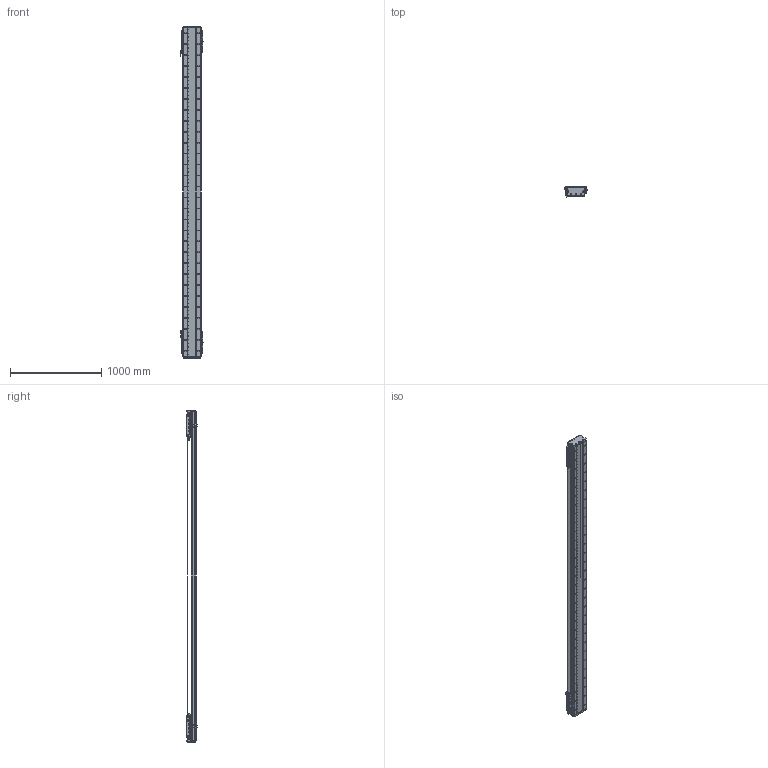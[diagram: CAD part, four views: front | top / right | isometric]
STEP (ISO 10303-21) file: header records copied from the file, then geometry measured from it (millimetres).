
FILE_DESCRIPTION (( 'STEP AP203' ), '1' );
FILE_NAME ('DA-C195-2-C3-T3020-C010-0.2 眻盄萇儂.STEP', '2025-08-15T00:53:41', ( '' ), ( '' ), 'SwSTEP 2.0', 'SolidWorks 2019', '' );
FILE_SCHEMA (( 'CONFIG_CONTROL_DESIGN' ));
Length unit declared in the file: millimetre
Products named in the file (19): DA95-HXJ-00 遣喳砎蝶; DA165-GYP-00 光电感应片(默认); DKW-KGZ-ZJ-00 中间光电开关支架; LMT黍杅芛; IU-CU195-L-00 菁釱(L3600); DA195詩湍郪璃; CU195-C3賑輸-俋楷; DKW-GYP-ZJ-00 笢潔嫖萇覜茼え; 葩璃 DA95-GT-T-00; DA-C195-2-C3-T3020-C010-0.2 眻盄萇儂; PM-Y65嫖萇羲壽郪璃; DA195詩湍裔啣; DKW168-HXJ-ZJ-00 笢潔滅袉砎蝶; IU-CU195-L 菁釱絳寢; DA195詩湍嶺輸; PM-T45ㄗ侂狟ㄘ; DA195詩湍菜輸; MS200 棠掑喜S315-T240; DA-C195-GD-DB-H-00 傷啣
Assembly tree (37 placements, depth 3):
  DA-C195-2-C3-T3020-C010-0.2 眻盄萇儂
    DA195詩湍郪璃
      DA195詩湍菜輸  x2
      DA195詩湍裔啣
      DA195詩湍嶺輸  x2
      DA95-HXJ-00 遣喳砎蝶  x8
      DA-C195-GD-DB-H-00 傷啣  x2
    IU-CU195-L 菁釱絳寢
      IU-CU195-L-00 菁釱(L3600)
      葩璃 DA95-GT-T-00  x4
    LMT黍杅芛  x2
    MS200 棠掑喜S315-T240
    PM-T45ㄗ侂狟ㄘ  x4
    DA165-GYP-00 光电感应片(默认)  x2
    PM-Y65嫖萇羲壽郪璃
    DKW168-HXJ-ZJ-00 笢潔滅袉砎蝶
    DKW-GYP-ZJ-00 笢潔嫖萇覜茼え
    DKW-KGZ-ZJ-00 中间光电开关支架
    CU195-C3賑輸-俋楷  x2
Bounding box: 258.2 x 115.45 x 3640 mm (x, y, z)
Volume: 22158292.9 mm3; surface area: 6461839.4 mm2
Topology: 154 solids, 218 shells, 7309 faces, 20031 edges, 12549 vertices
Faces by surface type: cylinder 3690, plane 2567, cone 884, torus 88, sphere 72, bspline 8
Entity records: 171367 total; most frequent: CARTESIAN_POINT 48517, ORIENTED_EDGE 26078, DIRECTION 24240, EDGE_CURVE 13039, AXIS2_PLACEMENT_3D 8965, VERTEX_POINT 8474, LINE 6310, VECTOR 6310
